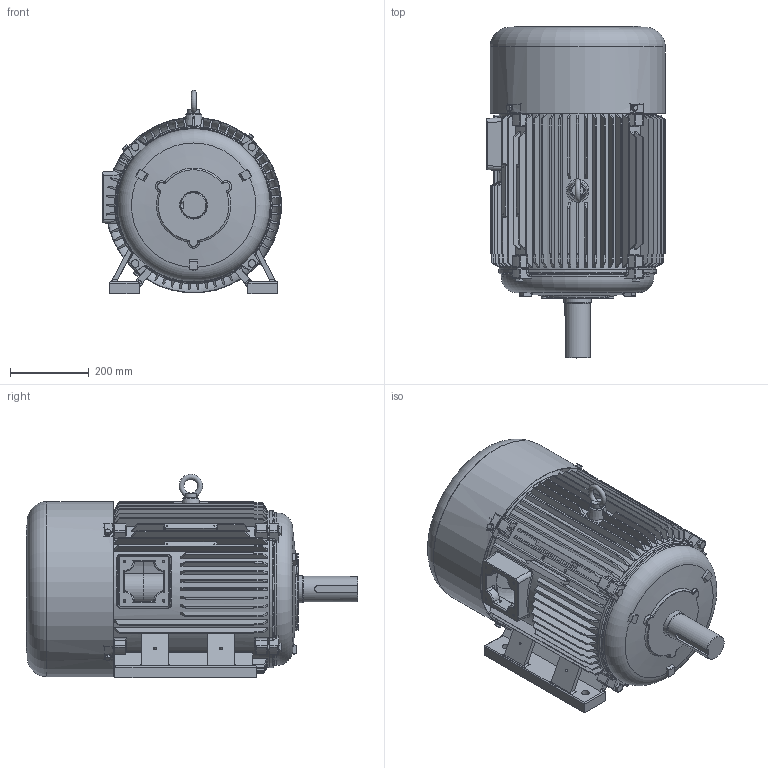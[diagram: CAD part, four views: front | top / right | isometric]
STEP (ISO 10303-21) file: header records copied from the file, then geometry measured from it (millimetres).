
FILE_DESCRIPTION(/* description */ ('Unknown'),/* implementation_level */ '2;1');
FILE_NAME(/* name */ '1-SMA-38108_외형도(380DIA)',/* time_stamp */ '2026-07-24T08:23:24+09:00',/* author */ ('Unknown'),/* organization */ ('Unknown'),/* preprocessor_version */ 'ST-DEVELOPER v16',/* originating_system */ 'DEX',/* authorisation */ $);
FILE_SCHEMA (('AUTOMOTIVE_DESIGN {1 0 10303 214 3 1 1}'));
Products named in the file (12): 1-SMA-38108_寇屈档(380DI; 2-SMA-38113_FRAME(380DIA); 3-SMA-37484-1_擅粽塭鰍(380D; 4-SMA-37456-1_菴粽塭鰍(380D; 5-SMA-38114_SHAFT(380DIA); 6-SMA-31247_FAN(330DIA); 7-SMA-34753-3_FAN COVER(380DIA); 幫陝獐お M12x1.75x; Iｺｼﾆｮ M16x2.0x27P/ｼ; 幫陝Ы楠雖 M8x1.25; 6312ZZ; 6314ZZ
Assembly tree (21 placements, depth 2):
  1-SMA-38108_寇屈档(380DI
    2-SMA-38113_FRAME(380DIA)
    3-SMA-37484-1_擅粽塭鰍(380D
    4-SMA-37456-1_菴粽塭鰍(380D
    5-SMA-38114_SHAFT(380DIA)
    6-SMA-31247_FAN(330DIA)
    7-SMA-34753-3_FAN COVER(380DIA)
    幫陝獐お M12x1.75x  x8
    Iｺｼﾆｮ M16x2.0x27P/ｼ
    幫陝Ы楠雖 M8x1.25  x4
    6312ZZ
    6314ZZ
Bounding box: 453.68 x 844 x 516.99 mm (x, y, z)
Volume: 18887649 mm3; surface area: 4363873.7 mm2
Topology: 44 solids, 44 shells, 4824 faces, 13548 edges, 8824 vertices
Faces by surface type: plane 3416, cylinder 557, cone 313, bspline 262, torus 226, sphere 50
Full cylindrical faces by diameter (mm): 2.2 x4, 6.647 x7, 8 x10, 10.106 x10, 12 x16, 13.835 x1, 15 x8, 16 x2, 17.5 x4, 19 x4, 30 x1, 50 x2, 59.8 x1, 60 x2, 60.8 x1, 65 x1, 69.8 x1, 70 x2, 70.5 x1, 77 x2, 79.8 x1, 80 x3, 80.4 x2, 84.5 x1, 92.857 x2, 93.257 x2, 109.6 x2, 110 x2, 126.743 x2, 127.143 x2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
Entity records: 188451 total; most frequent: CARTESIAN_POINT 59892, ORIENTED_EDGE 25638, DIRECTION 21950, EDGE_CURVE 12819, LINE 9802, VECTOR 9802, VERTEX_POINT 8507, FACE_BOUND 6464
